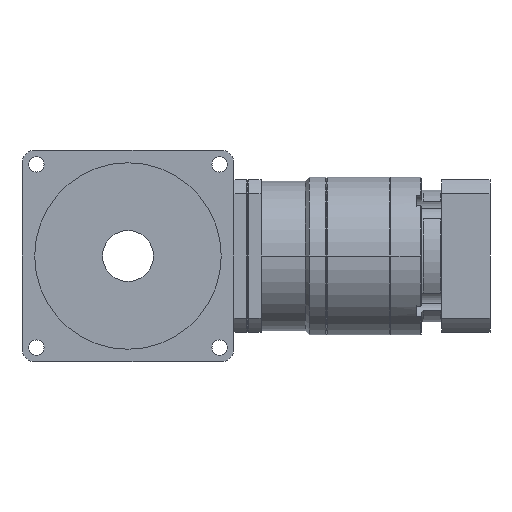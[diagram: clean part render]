
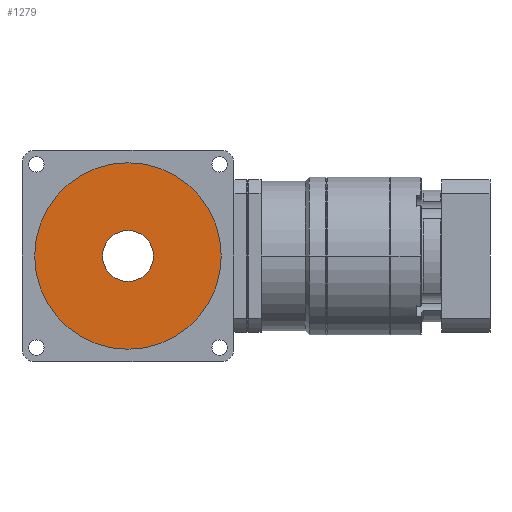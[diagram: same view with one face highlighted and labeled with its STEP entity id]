
A CAD part, left-side view. The second image highlights one B-rep face of the part: STEP entity #1279.
In plain terms, the highlighted planar face has unit normal (-1, 0, 0).
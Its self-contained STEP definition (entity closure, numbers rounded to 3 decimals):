
#38 = CARTESIAN_POINT ( 'NONE',  ( -43., 0., 0. ) ) ;
#203 = DIRECTION ( 'NONE',  ( -1., 0., 0. ) ) ;
#412 = DIRECTION ( 'NONE',  ( -1., 0., 0. ) ) ;
#525 = DIRECTION ( 'NONE',  ( 0., 0., 1. ) ) ;
#1279 = ADVANCED_FACE ( 'NONE', ( #7609, #9951 ), #14700, .T. ) ;
#1734 = CARTESIAN_POINT ( 'NONE',  ( -43., 0., 0. ) ) ;
#1767 = CARTESIAN_POINT ( 'NONE',  ( -43., 0., 0. ) ) ;
#2107 = ORIENTED_EDGE ( 'NONE', *, *, #5773, .F. ) ;
#3278 = DIRECTION ( 'NONE',  ( -1., 0., 0. ) ) ;
#3462 = CARTESIAN_POINT ( 'NONE',  ( -43., 0., 0. ) ) ;
#3563 = CARTESIAN_POINT ( 'NONE',  ( -43., 0., 0. ) ) ;
#4374 = AXIS2_PLACEMENT_3D ( 'NONE', #1734, #412, #10068 ) ;
#4906 = AXIS2_PLACEMENT_3D ( 'NONE', #3563, #13014, #9000 ) ;
#5168 = VERTEX_POINT ( 'NONE', #15331 ) ;
#5712 = EDGE_LOOP ( 'NONE', ( #2107, #8457 ) ) ;
#5773 = EDGE_CURVE ( 'NONE', #5168, #14617, #9658, .T. ) ;
#6138 = EDGE_LOOP ( 'NONE', ( #12656, #13049 ) ) ;
#6334 = CARTESIAN_POINT ( 'NONE',  ( -43., 0., 15. ) ) ;
#7046 = DIRECTION ( 'NONE',  ( -1., 0., 0. ) ) ;
#7309 = VERTEX_POINT ( 'NONE', #7354 ) ;
#7354 = CARTESIAN_POINT ( 'NONE',  ( -43., 0., -55. ) ) ;
#7609 = FACE_BOUND ( 'NONE', #5712, .T. ) ;
#7717 = AXIS2_PLACEMENT_3D ( 'NONE', #1767, #3278, #525 ) ;
#8457 = ORIENTED_EDGE ( 'NONE', *, *, #10171, .F. ) ;
#9000 = DIRECTION ( 'NONE',  ( 0., 0., 1. ) ) ;
#9418 = CARTESIAN_POINT ( 'NONE',  ( -43., 0., 55. ) ) ;
#9464 = CIRCLE ( 'NONE', #10696, 55. ) ;
#9658 = CIRCLE ( 'NONE', #4906, 15. ) ;
#9951 = FACE_OUTER_BOUND ( 'NONE', #6138, .T. ) ;
#10068 = DIRECTION ( 'NONE',  ( 0., 0., 1. ) ) ;
#10151 = EDGE_CURVE ( 'NONE', #7309, #10804, #9464, .T. ) ;
#10171 = EDGE_CURVE ( 'NONE', #14617, #5168, #11213, .T. ) ;
#10696 = AXIS2_PLACEMENT_3D ( 'NONE', #38, #7046, #12044 ) ;
#10804 = VERTEX_POINT ( 'NONE', #9418 ) ;
#11213 = CIRCLE ( 'NONE', #12465, 15. ) ;
#12044 = DIRECTION ( 'NONE',  ( 0., 0., 1. ) ) ;
#12465 = AXIS2_PLACEMENT_3D ( 'NONE', #3462, #203, #14466 ) ;
#12656 = ORIENTED_EDGE ( 'NONE', *, *, #14643, .T. ) ;
#13014 = DIRECTION ( 'NONE',  ( -1., 0., 0. ) ) ;
#13049 = ORIENTED_EDGE ( 'NONE', *, *, #10151, .T. ) ;
#14466 = DIRECTION ( 'NONE',  ( 0., 0., 1. ) ) ;
#14617 = VERTEX_POINT ( 'NONE', #6334 ) ;
#14643 = EDGE_CURVE ( 'NONE', #10804, #7309, #15087, .T. ) ;
#14700 = PLANE ( 'NONE',  #7717 ) ;
#15087 = CIRCLE ( 'NONE', #4374, 55. ) ;
#15331 = CARTESIAN_POINT ( 'NONE',  ( -43., 0., -15. ) ) ;
